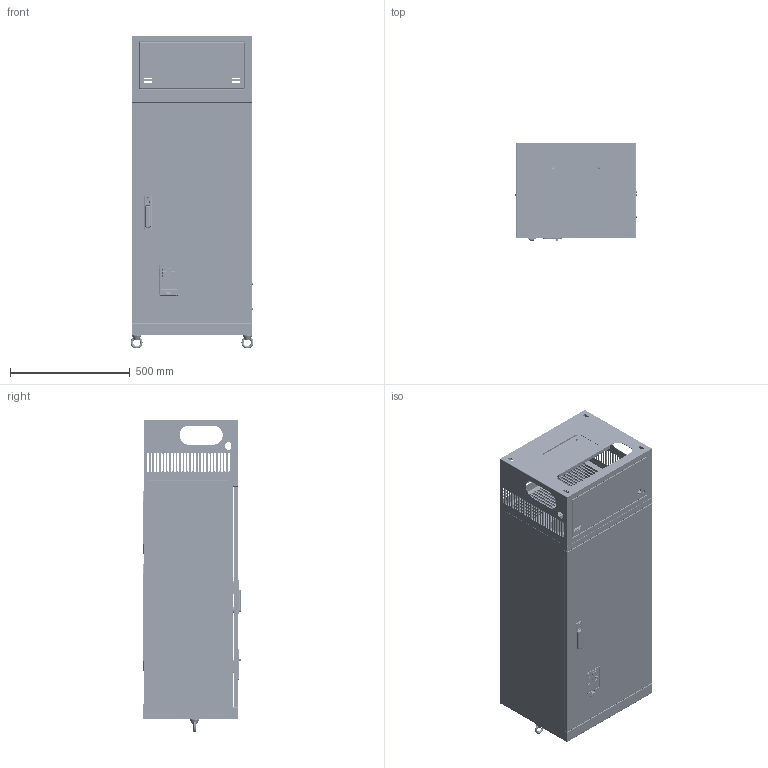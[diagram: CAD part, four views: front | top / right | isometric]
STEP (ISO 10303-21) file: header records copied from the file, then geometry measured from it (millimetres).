
FILE_DESCRIPTION((''),'2;1');
FILE_NAME('ESQ-760-4T-200-250KW','2020-07-13T',('ranqinwen'),(''),'CREO PARAMETRIC BY PTC INC, 2016260','CREO PARAMETRIC BY PTC INC, 2016260','');
FILE_SCHEMA(('AUTOMOTIVE_DESIGN { 1 0 10303 214 1 1 1 1 }'));
Products named in the file (1): ESQ-760-4T-200-250KW
Bounding box: 511.85 x 408 x 1305 mm (x, y, z)
Surface area: 7708242.9 mm2 (no closed solid volume)
Topology: 0 solids, 201 shells, 7285 faces, 19164 edges, 12227 vertices
Faces by surface type: plane 3538, cylinder 2629, bspline 373, torus 324, extrusion 209, cone 160, sphere 48, revolution 4
Entity records: 350485 total; most frequent: CARTESIAN_POINT 68489, ORIENTED_EDGE 38256, DIRECTION 37637, PRESENTATION_STYLE_ASSIGNMENT 25209, STYLED_ITEM 19539, CURVE_STYLE 19341, EDGE_CURVE 19128, AXIS2_PLACEMENT_3D 13339
